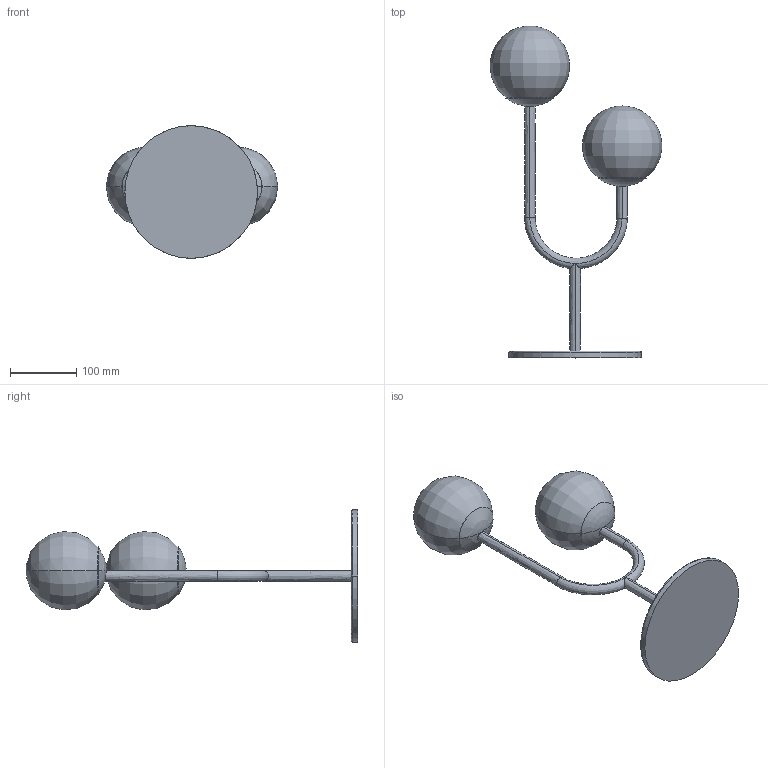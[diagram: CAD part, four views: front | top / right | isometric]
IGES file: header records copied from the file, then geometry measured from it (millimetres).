
Start section: SolidWorks IGES file using analytic representation for surfaces
Global section: file name: Y:\eforma\TECNICO\SOLIDWORKS\E-FORMA\09-LAMPADE\DECOR\02 parts\DECL3_Decor 2 tavolo.IGS; native system: SolidWorks 2022; preprocessor: SolidWorks 2022; author: eforma.tech; date: 240806.104355; units: millimetre
Bounding box: 258.87 x 500.62 x 200 mm (x, y, z)
Volume: 2243994.1 mm3; surface area: 187748.8 mm2
Topology: 1 solids, 1 shells, 30 faces, 74 edges, 37 vertices
Faces by surface type: revolution 22, plane 4, bspline 4
